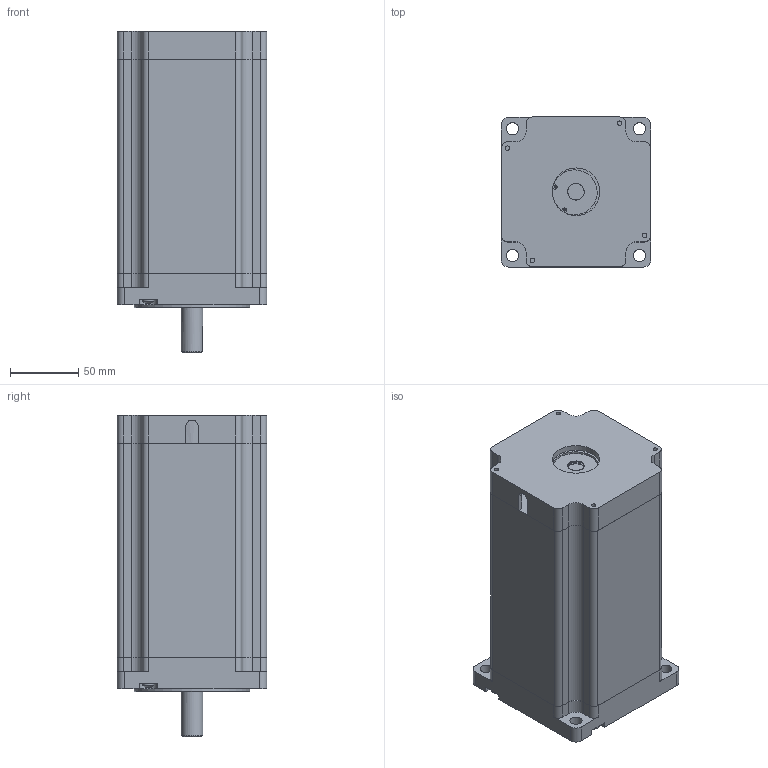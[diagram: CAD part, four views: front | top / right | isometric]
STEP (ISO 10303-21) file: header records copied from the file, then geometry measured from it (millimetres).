
FILE_DESCRIPTION (( 'STEP AP203' ), '1' );
FILE_NAME ('YK110HB201-08A.STEP', '2018-11-14T10:32:27', ( '' ), ( '' ), 'SwSTEP 2.0', 'SolidWorks 2014', '' );
FILE_SCHEMA (( 'CONFIG_CONTROL_DESIGN' ));
Length unit declared in the file: millimetre
Products named in the file (24): YK110HBXX隅赽; YK110HBXX粣杶; YK110HBXX蹟佪; YK110HBXXヶ粣創; YK110HBXX后挡圈; YK110HBXXヶ裔; YK110HBXX綴粣創; YK110HBXX綴菜え; YK110HBXX綴裔; YK110HBXX粣郋1; YK110HB201-08A
Assembly tree (13 placements, depth 2):
  YK110HBXX蹟佪
  YK110HBXXヶ粣創
  YK110HBXX隅赽
  YK110HBXX蹟佪
  YK110HBXX粣杶
Bounding box: 110 x 110 x 236 mm (x, y, z)
Volume: 1547998.3 mm3; surface area: 262224.7 mm2
Topology: 13 solids, 13 shells, 1698 faces, 4685 edges, 3099 vertices
Faces by surface type: plane 1548, cylinder 121, bspline 21, cone 8
Full cylindrical faces by diameter (mm): 1.5 x2, 3.3 x4, 4 x4, 4.2 x4, 4.5 x8, 8 x4, 9 x4, 12 x1, 15 x2, 16 x1, 19 x2, 20 x2, 25.5 x1, 27 x2, 30.5 x2, 35 x4, 37 x1, 45 x2, 47 x2, 52 x2, 55.5 x1, 59 x2, 66.6 x3, 85 x1, 100.5 x1
Entity records: 54322 total; most frequent: CARTESIAN_POINT 10816, ORIENTED_EDGE 8828, DIRECTION 7838, EDGE_CURVE 4414, LINE 4130, VECTOR 4130, VERTEX_POINT 2982, AXIS2_PLACEMENT_3D 1854
